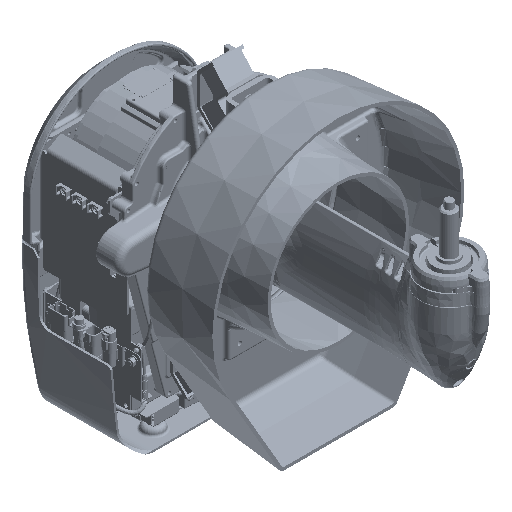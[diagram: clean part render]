
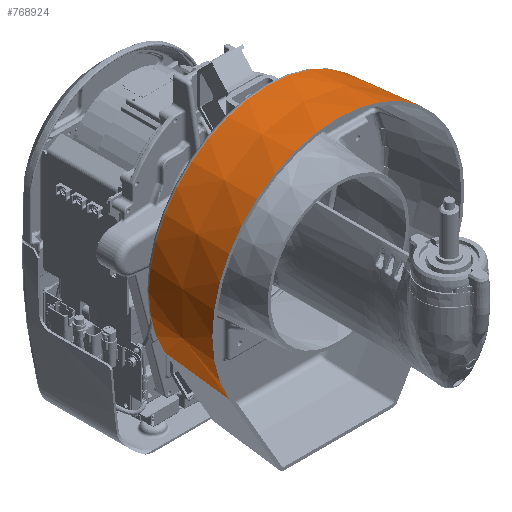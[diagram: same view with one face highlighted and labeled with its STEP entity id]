
A CAD part, isometric view. The second image highlights one B-rep face of the part: STEP entity #768924.
In plain terms, the highlighted conical face has half-angle 5 degrees and reference radius 240.742 mm.
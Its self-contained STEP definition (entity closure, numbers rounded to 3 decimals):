
#764230=DIRECTION('',(0.075,-0.996,-0.044));
#764231=VECTOR('',#764230,136.391);
#764232=CARTESIAN_POINT('',(202.997,-119.128,
-117.994));
#764233=LINE('',#764232,#764231);
#764242=CARTESIAN_POINT('',(0.,-255.,0.));
#764243=DIRECTION('',(0.,1.,0.));
#764244=DIRECTION('',(-0.865,0.,-0.503));
#764245=AXIS2_PLACEMENT_3D('',#764242,#764243,#764244);
#764247=DIRECTION('',(-0.075,-0.996,
-0.044));
#764248=VECTOR('',#764247,136.391);
#764249=CARTESIAN_POINT('',(-202.997,-119.128,
-117.994));
#764250=LINE('',#764249,#764248);
#764251=CARTESIAN_POINT('',(0.,-119.128,0.));
#764252=DIRECTION('',(0.,1.,0.));
#764253=DIRECTION('',(-0.865,0.,-0.503));
#764254=AXIS2_PLACEMENT_3D('',#764251,#764252,#764253);
#768221=CARTESIAN_POINT('',(-202.997,-119.128,
-117.994));
#768222=CARTESIAN_POINT('',(202.997,-119.128,
-117.994));
#768223=VERTEX_POINT('',#768221);
#768224=VERTEX_POINT('',#768222);
#768245=CARTESIAN_POINT('',(213.275,-255.,-123.967));
#768247=VERTEX_POINT('',#768245);
#768254=CARTESIAN_POINT('',(-213.275,-255.,-123.967));
#768256=VERTEX_POINT('',#768254);
#768912=CARTESIAN_POINT('',(0.,-187.064,0.));
#768913=DIRECTION('',(0.,-1.,0.));
#768914=DIRECTION('',(0.,0.,-1.));
#768915=AXIS2_PLACEMENT_3D('',#768912,#768913,#768914);
#768916=CONICAL_SURFACE('',#768915,240.742,5.);
#768917=ORIENTED_EDGE('',*,*,#768862,.F.);
#768919=ORIENTED_EDGE('',*,*,#768918,.F.);
#768920=ORIENTED_EDGE('',*,*,#768799,.T.);
#768921=ORIENTED_EDGE('',*,*,#768905,.T.);
#768922=EDGE_LOOP('',(#768917,#768919,#768920,#768921));
#768923=FACE_OUTER_BOUND('',#768922,.F.);
#768924=ADVANCED_FACE('',(#768923),#768916,.T.);
#764246=CIRCLE('',#764245,246.686);
#764255=CIRCLE('',#764254,234.799);
#768799=EDGE_CURVE('',#768223,#768224,#764255,.T.);
#768862=EDGE_CURVE('',#768256,#768247,#764246,.T.);
#768905=EDGE_CURVE('',#768224,#768247,#764233,.T.);
#768918=EDGE_CURVE('',#768223,#768256,#764250,.T.);
